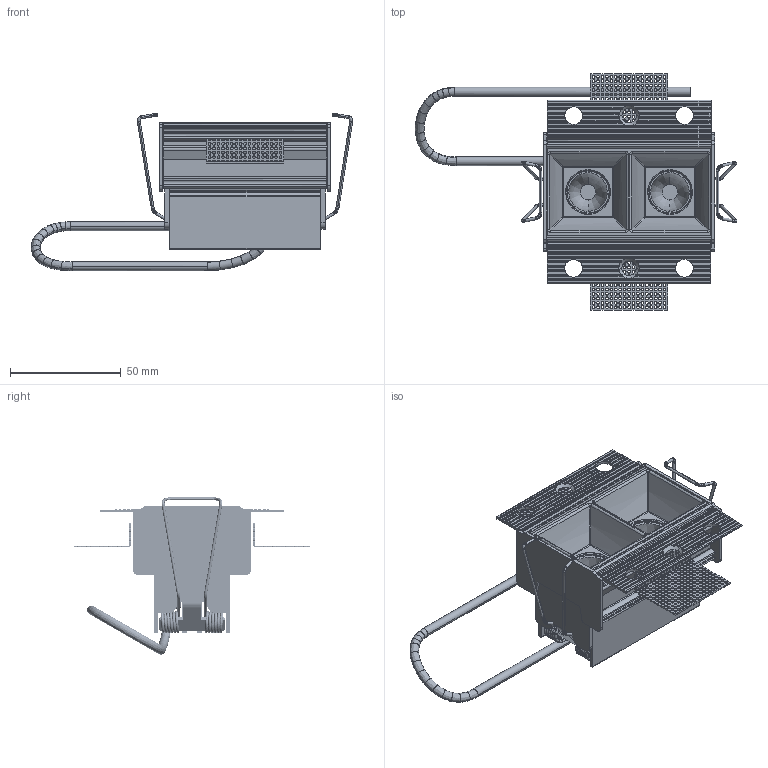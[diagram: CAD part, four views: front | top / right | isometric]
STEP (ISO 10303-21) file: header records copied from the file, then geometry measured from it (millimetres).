
FILE_DESCRIPTION(/* description */ (''),/* implementation_level */ '2;1');
FILE_NAME(/* name */ 'AFFT002',/* time_stamp */ '2018-02-01T17:06:32+01:00',/* author */ (''),/* organization */ (''),/* preprocessor_version */ 'ST-DEVELOPER v15',/* originating_system */ '',/* authorisation */ '');
FILE_SCHEMA (('CONFIG_CONTROL_DESIGN'));
Products named in the file (1): Document
Bounding box: 145.09 x 106.8 x 71.04 mm (x, y, z)
Volume: 14037.3 mm3; surface area: 61453.6 mm2
Topology: 7 solids, 22 shells, 2995 faces, 9237 edges, 6091 vertices
Faces by surface type: bspline 2493, plane 502
Entity records: 148809 total; most frequent: CARTESIAN_POINT 99078, ORIENTED_EDGE 18150, EDGE_CURVE 9173, VERTEX_POINT 6091, EDGE_LOOP 4103, B_SPLINE_CURVE_WITH_KNOTS 3421, ADVANCED_FACE 2995, FACE_OUTER_BOUND 2995
